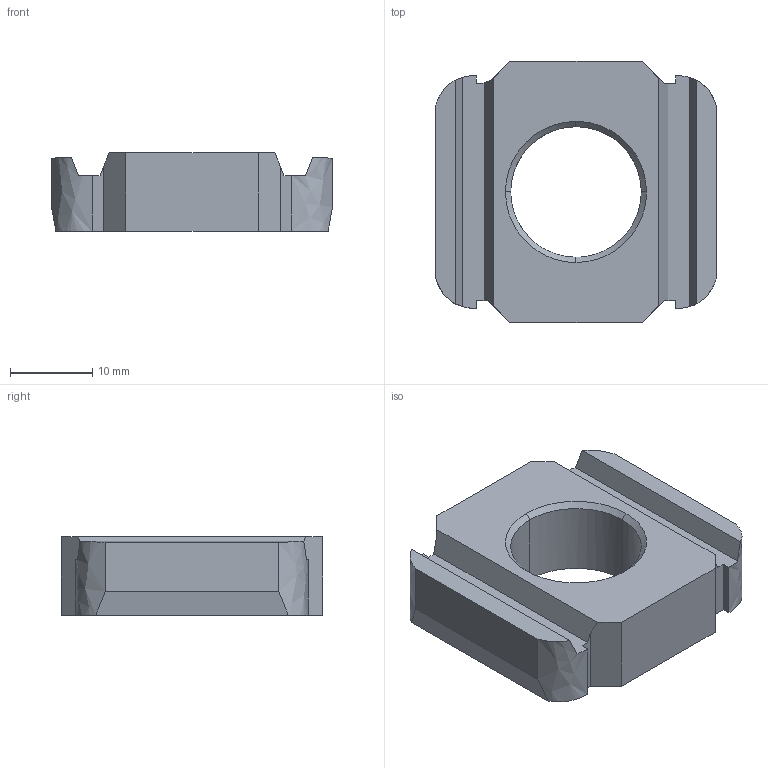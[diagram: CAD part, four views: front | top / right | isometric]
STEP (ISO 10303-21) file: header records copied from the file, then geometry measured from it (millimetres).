
FILE_DESCRIPTION(('TurboCAD Mac Pro'),'Build 980');
FILE_NAME('P1012.stp',' ',(''),(''),'ACIS Interop','IMSI','TurboCAD Mac Pro BY IMSI, INCORPORATED');
FILE_SCHEMA(('automotive_design'));
Length unit declared in the file: inch
Products named in the file (1): 1
Bounding box: 34.16 x 31.75 x 9.53 mm (x, y, z)
Volume: 6997.8 mm3; surface area: 3337.4 mm2
Topology: 1 solids, 1 shells, 41 faces, 113 edges, 74 vertices
Faces by surface type: plane 29, bspline 12
Entity records: 2087 total; most frequent: CARTESIAN_POINT 785, ORIENTED_EDGE 226, DIRECTION 141, EDGE_CURVE 113, LINE 81, VECTOR 81, VERTEX_POINT 74, EDGE_LOOP 43
